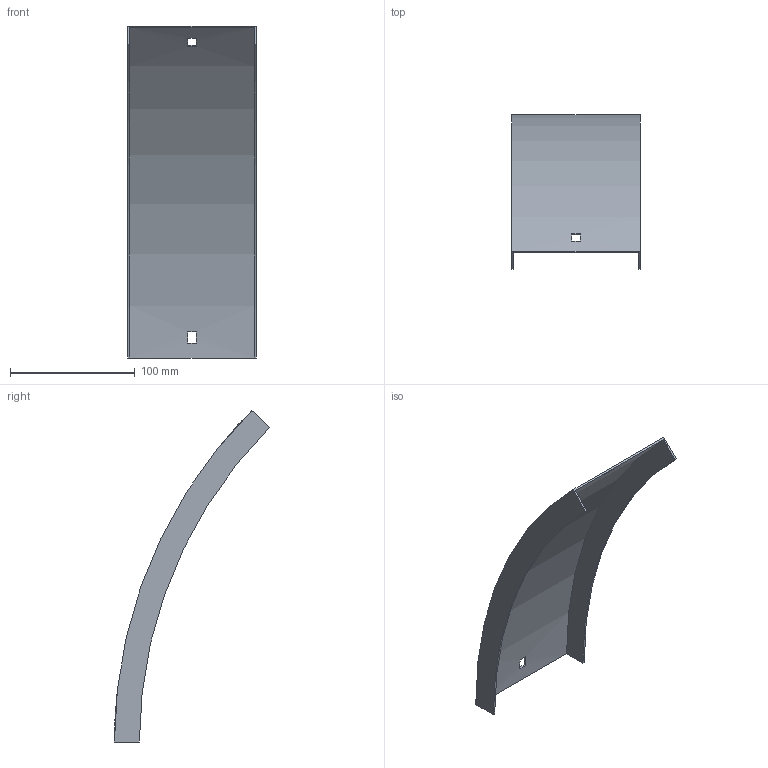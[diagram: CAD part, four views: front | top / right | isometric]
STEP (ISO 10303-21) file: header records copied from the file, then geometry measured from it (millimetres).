
FILE_DESCRIPTION (( 'STEP AP214' ), '1' );
FILE_NAME ('B2_34N3C100.step', '2025-02-21T10:35:47', ( '' ), ( '' ), 'SwSTEP 2.0', 'SolidWorks 2023', '' );
FILE_SCHEMA (( 'AUTOMOTIVE_DESIGN' ));
Length unit declared in the file: millimetre
Products named in the file (1): B2_34N3C100
Bounding box: 103 x 124.42 x 266.23 mm (x, y, z)
Volume: 61362.2 mm3; surface area: 83171.2 mm2
Topology: 1 solids, 1 shells, 18 faces, 48 edges, 32 vertices
Faces by surface type: plane 14, cylinder 4
Entity records: 599 total; most frequent: DIRECTION 102, CARTESIAN_POINT 99, ORIENTED_EDGE 96, EDGE_CURVE 48, AXIS2_PLACEMENT_3D 35, VECTOR 32, LINE 32, VERTEX_POINT 32
